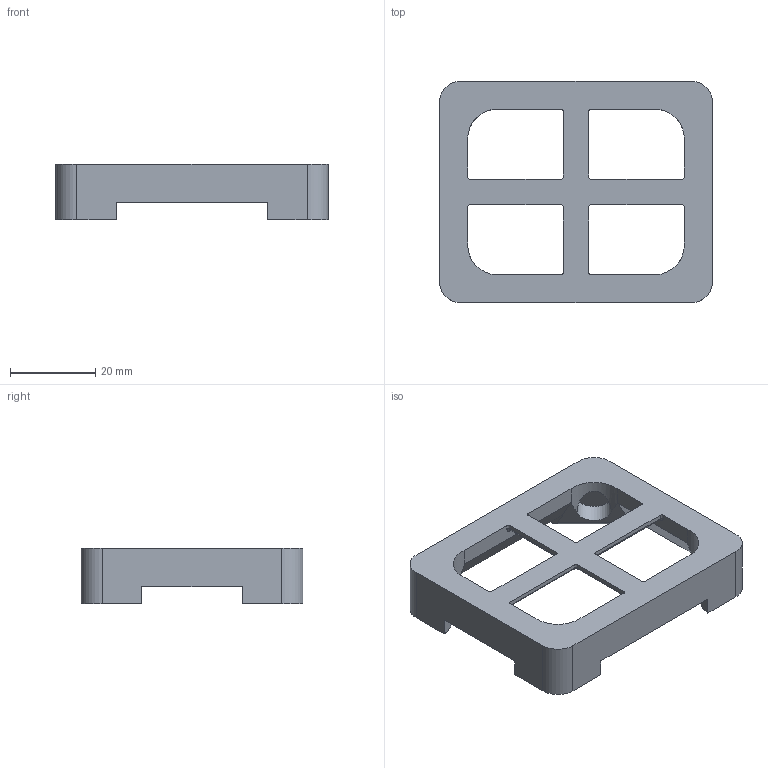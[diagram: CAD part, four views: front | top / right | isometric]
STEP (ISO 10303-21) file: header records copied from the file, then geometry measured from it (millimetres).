
FILE_DESCRIPTION(/* description */ (''),/* implementation_level */ '2;1');
FILE_NAME(/* name */ 'Baugruppe1.stp',/* time_stamp */ '2025-05-28T14:07:47+02:00',/* author */ ('dw'),/* organization */ (''),/* preprocessor_version */ 'ST-DEVELOPER v20',/* originating_system */ 'Autodesk Inventor 2025',/* authorisation */ '');
FILE_SCHEMA (('AUTOMOTIVE_DESIGN { 1 0 10303 214 3 1 1 }'));
Length unit declared in the file: millimetre
Products named in the file (2): Baugruppe1; Grundplatte V11 8.0 Loch -0,1 Kugelrastfläche
Assembly tree (1 placements, depth 2):
  Baugruppe1
    Grundplatte V11 8.0 Loch -0,1 Kugelrastfläche
Bounding box: 64 x 52 x 13 mm (x, y, z)
Volume: 13782.3 mm3; surface area: 8137.6 mm2
Topology: 1 solids, 1 shells, 99 faces, 278 edges, 179 vertices
Faces by surface type: plane 47, cylinder 40, torus 12
Full cylindrical faces by diameter (mm): 8 x4
Entity records: 3390 total; most frequent: CARTESIAN_POINT 673, DIRECTION 574, ORIENTED_EDGE 556, EDGE_CURVE 278, AXIS2_PLACEMENT_3D 200, VERTEX_POINT 177, LINE 174, VECTOR 174
